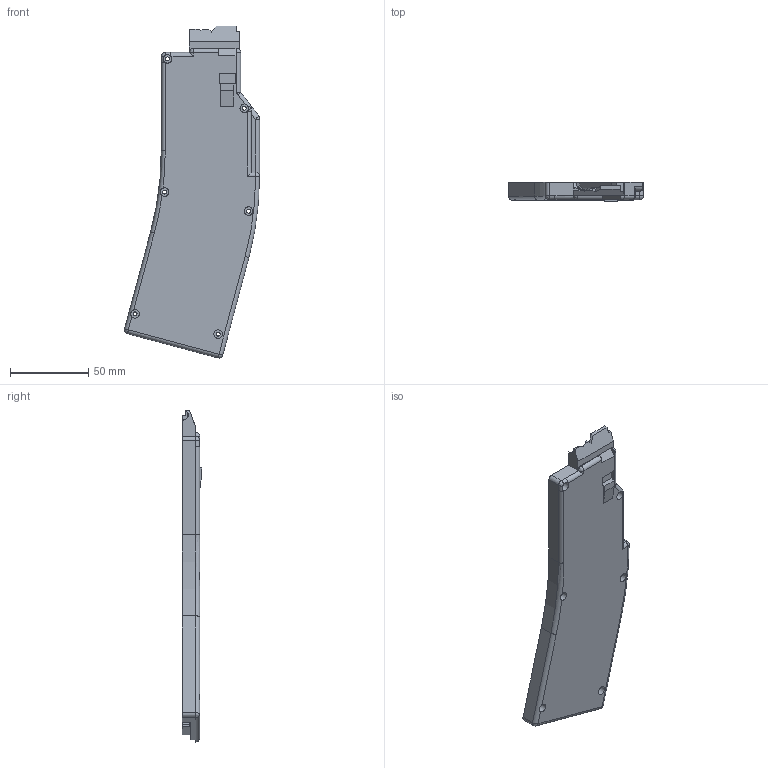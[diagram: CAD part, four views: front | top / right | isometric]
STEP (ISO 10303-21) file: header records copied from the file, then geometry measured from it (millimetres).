
FILE_DESCRIPTION(/* description */ (''),/* implementation_level */ '2;1');
FILE_NAME(/* name */ 'D:/CTRLPEW/Rifles/AR Mags and Mag Accessories/AR Magazines/S&W 15-22 25r Mags/S&W 15-22 Left Mag 25r.step',/* time_stamp */ '2021-03-05T21:54:14-07:00',/* author */ (''),/* organization */ (''),/* preprocessor_version */ 'ST-DEVELOPER v18.1',/* originating_system */ 'Autodesk Translation Framework v9.10.0.1330',/* authorisation */ '');
FILE_SCHEMA (('AUTOMOTIVE_DESIGN { 1 0 10303 214 3 1 1 }'));
Length unit declared in the file: millimetre
Products named in the file (1): 22 Mag
Bounding box: 86.24 x 12.47 x 211.97 mm (x, y, z)
Volume: 106875.9 mm3; surface area: 32440.6 mm2
Topology: 1 solids, 1 shells, 191 faces, 492 edges, 303 vertices
Faces by surface type: plane 81, bspline 55, cylinder 50, sphere 3, torus 2
Full cylindrical faces by diameter (mm): 2.5 x6, 5.5 x6
Entity records: 7598 total; most frequent: CARTESIAN_POINT 3195, ORIENTED_EDGE 978, DIRECTION 802, EDGE_CURVE 489, VERTEX_POINT 303, AXIS2_PLACEMENT_3D 293, LINE 216, VECTOR 216
